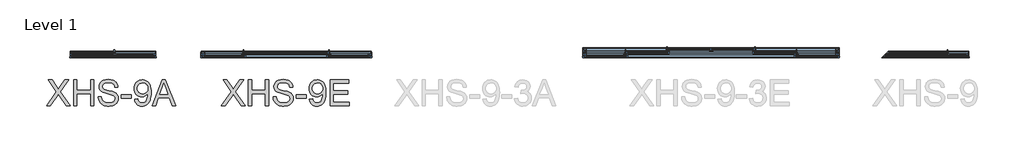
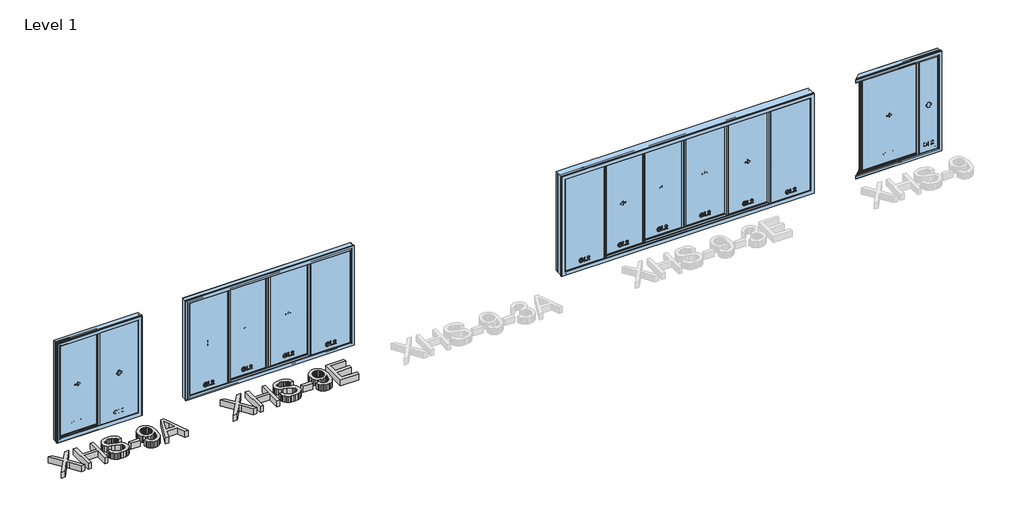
# One storey, part 1 of 2: 4 windows, 2 proxies.
"""IFC4 building model written with IfcOpenShell, lengths in millimetres."""

from ifc_helpers import new_model, si_unit, origin, origin_with_axes, place, context, project, spatial, polyline, outline, extrude, transform, mapped, element, save
from components import window_4e3b3f19, window_bfaaae80, window_bf3bb52b, window_81968e4f, window_7b3e0aa8, window_269518a1

model = new_model("IFC4")

# Units and contexts
model_context = context("Model", 3, world=origin())
ifc_project = project(units=[si_unit("LENGTHUNIT", "METRE", prefix="MILLI")], contexts=[model_context])

# Site, building, storey
site = spatial("IfcSite", under=ifc_project)
building = spatial("IfcBuilding", under=site)
storey = spatial("IfcBuildingStorey", under=building, Name="Level 1", Elevation=0.0)

# Proxies
placement = place(None, origin())
element("IfcBuildingElementProxy", 1, Name="600mm Arial", ObjectType="600mm Arial", at=placement, inside=storey, context=model_context, shape_type="SweptSolid", body=[
    extrude(outline(polyline([(-8424.8652122, -2254.2839532), (-8192.6580968, -1925.838908), (-8387.1940959, -1651.5460923), (-8296.9894307, -1651.5460923), (-8187.3605961, -1806.0565303), (-8161.1306099, -1845.08881), (-8150.4252438, -1866.2420247), (-8107.1623212, -1804.7321551), (-7998.710709, -1651.5460923), (-7906.887363, -1651.5460923), (-8101.5705148, -1926.8689775), (-7869.2162467, -2254.2839532), (-7959.5680647, -2254.2839532), (-8114.5199611, -2036.0563537), (-8146.7464238, -1990.8804447), (-8181.9159426, -2040.4709377), (-8333.0418662, -2254.2839532), (-8424.8652122, -2254.2839532)])), origin_with_axes(), (0.0, 0.0, 1.0), 150.0),
    extrude(outline(polyline([(-7793.8740141, -2254.2839532), (-7793.8740141, -1651.5460923), (-7718.5317815, -1651.5460923), (-7718.5317815, -1896.4083483), (-7398.3272929, -1896.4083483), (-7398.3272929, -1651.5460923), (-7322.9850602, -1651.5460923), (-7322.9850602, -2254.2839532), (-7398.3272929, -2254.2839532), (-7398.3272929, -1971.750581), (-7718.5317815, -1971.750581), (-7718.5317815, -2254.2839532), (-7793.8740141, -2254.2839532)])), origin_with_axes(), (0.0, 0.0, 1.0), 150.0),
    extrude(outline(polyline([(-7219.3894904, -2047.0928136), (-7144.0472578, -2047.0928136), (-7135.4020309, -2088.9026023), (-7119.7670461, -2122.5086226), (-7095.3764698, -2149.1800672), (-7060.4644685, -2170.1861292), (-7017.7901571, -2183.8161571), (-6970.1126505, -2188.3594997), (-6928.1373148, -2184.9198031), (-6891.3859035, -2174.6007131), (-6861.605856, -2158.2667525), (-6840.5446118, -2136.782444), (-6828.0182298, -2112.1159562), (-6823.8427692, -2086.2354579), (-6826.9697662, -2061.0171471), (-6836.350757, -2039.2201389), (-6855.4070444, -2020.623704), (-6887.5599308, -2005.0071133), (-6997.2623417, -1976.2387413), (-7069.2752423, -1957.200848), (-7115.3524622, -1939.0826598), (-7152.8580316, -1913.7355903), (-7179.4375057, -1883.0174437), (-7195.2748256, -1847.5904076), (-7200.5539323, -1808.1166695), (-7198.9214559, -1785.6804663), (-7194.0240268, -1763.9892242), (-7185.8616451, -1743.0429431), (-7174.4343106, -1722.841623), (-7159.8707821, -1704.2084), (-7142.2998183, -1687.9664099), (-7121.7214192, -1674.1156528), (-7098.1355848, -1662.6561286), (-7045.1237893, -1647.2602671), (-6986.4466111, -1642.1283133), (-6922.8766023, -1647.4993904), (-6867.2528446, -1663.6126218), (-6842.9174506, -1675.6147719), (-6821.5619008, -1690.1369136), (-6803.1861952, -1707.1790471), (-6787.7903337, -1726.7411722), (-6775.493878, -1748.2530718), (-6766.4163897, -1771.144529), (-6760.557869, -1795.4155436), (-6757.9183157, -1821.0661157), (-6833.2605483, -1821.0661157), (-6838.3005316, -1797.0250273), (-6847.0929113, -1776.1109359), (-6859.6376873, -1758.3238415), (-6875.9348597, -1743.6637439), (-6896.2879311, -1732.2042198), (-6921.0004041, -1724.0188454), (-6950.0722788, -1719.1076208), (-6983.5035551, -1717.4705459), (-7018.0016892, -1719.0892267), (-7047.4782341, -1723.945269), (-7071.9331897, -1732.0386729), (-7091.3665561, -1743.3694383), (-7106.1738064, -1756.9902692), (-7116.7504138, -1771.9538694), (-7123.0963782, -1788.2602388), (-7125.2116996, -1805.9093775), (-7123.7125805, -1821.0937069), (-7119.2152231, -1834.8616905), (-7111.7196275, -1847.2133285), (-7101.2257936, -1858.1486208), (-7084.707892, -1868.504499), (-7058.6986349, -1878.9707418), (-6978.2060544, -1900.2343211), (-6895.1382999, -1920.4310426), (-6844.8856193, -1938.0525902), (-6801.9353964, -1965.3862224), (-6785.3301228, -1981.4534686), (-6771.9714079, -1999.1210014), (-6761.7029017, -2018.2968504), (-6754.3682544, -2038.8890451), (-6748.5005366, -2084.3224715), (-6750.1881952, -2107.8899118), (-6755.2511712, -2130.7675734), (-6763.6894645, -2152.9554562), (-6775.503075, -2174.4535603), (-6790.4850693, -2194.4295526), (-6808.4285136, -2212.0511002), (-6829.333408, -2227.318203), (-6853.1997524, -2240.230861), (-6879.3331696, -2250.4993672), (-6907.0392824, -2257.8340145), (-6967.1695945, -2263.7017323), (-7005.709832, -2262.1198397), (-7040.9851168, -2257.374162), (-7072.995449, -2249.4646991), (-7101.7408284, -2238.3914511), (-7127.395999, -2224.1360237), (-7150.1357048, -2206.6800231), (-7169.9599458, -2186.023449), (-7186.868722, -2162.1663017), (-7200.4895529, -2135.8811331), (-7210.4499579, -2107.9404956), (-7216.7499371, -2078.3443891), (-7219.3894904, -2047.0928136)])), origin_with_axes(), (0.0, 0.0, 1.0), 150.0),
    extrude(outline(polyline([(-6682.576083, -2075.3461508), (-6682.576083, -2000.0039182), (-6447.1316061, -2000.0039182), (-6447.1316061, -2075.3461508), (-6682.576083, -2075.3461508)])), origin_with_axes(), (0.0, 0.0, 1.0), 150.0),
    extrude(outline(polyline([(-6371.7893735, -2103.599488), (-6296.4471409, -2094.1817089), (-6283.5712711, -2136.9479909), (-6274.0983097, -2153.2129736), (-6262.6019974, -2166.0658508), (-6249.2110927, -2175.8193222), (-6234.0543545, -2182.7860875), (-6198.4433774, -2188.3594997), (-6166.4928261, -2184.7726503), (-6137.4485426, -2174.0121019), (-6113.3154837, -2157.255077), (-6096.0986063, -2135.678798), (-6083.0571896, -2107.3150962), (-6071.4505127, -2070.1958029), (-6063.2835324, -2027.5950678), (-6060.5612056, -1982.7870408), (-6061.002664, -1968.071761), (-6087.1038916, -1999.9303418), (-6121.2617348, -2025.1670467), (-6161.0113844, -2041.6113718), (-6203.8880309, -2047.0928136), (-6239.6783505, -2043.7450874), (-6272.5899935, -2033.7019089), (-6302.6229599, -2016.9632782), (-6329.7772497, -1993.5291951), (-6352.2778322, -1964.6228673), (-6368.3496769, -1931.4675025), (-6377.9927837, -1894.0631006), (-6381.2071526, -1852.4096617), (-6377.8364338, -1809.3674683), (-6367.7242775, -1770.7398588), (-6350.8706836, -1736.5268332), (-6327.2756521, -1706.7283916), (-6298.6038491, -1682.5861357), (-6266.5199406, -1665.3416672), (-6231.0239266, -1654.9949861), (-6192.1158071, -1651.5460923), (-6163.3888218, -1653.514261), (-6135.9218323, -1659.418767), (-6109.7148387, -1669.2596104), (-6084.7678409, -1683.0367911), (-6061.9131719, -1700.4560036), (-6041.9831648, -1721.2229422), (-6024.9778196, -1745.337607), (-6010.8971363, -1772.799998), (-5999.8560779, -1805.1920076), (-5991.9696076, -1844.0955286), (-5987.2377254, -1889.5105609), (-5985.6604314, -1941.4371045), (-5987.2331269, -1995.9710118), (-5991.9512135, -2044.6463983), (-5999.8146911, -2087.463264), (-6010.8235599, -2124.421609), (-6024.9364329, -2156.422744), (-6042.1119235, -2184.3679801), (-6062.3500318, -2208.2573171), (-6085.6507577, -2228.0907552), (-6111.5450516, -2243.6705577), (-6139.5638641, -2254.798988), (-6169.707195, -2261.4760463), (-6201.9750445, -2263.7017323), (-6235.8109911, -2261.0759746), (-6266.3911819, -2253.1987014), (-6293.7156171, -2240.0699127), (-6317.7842966, -2221.6896085), (-6337.9902152, -2198.5544295), (-6353.7263676, -2171.1610164), (-6364.9927537, -2139.5093693), (-6371.7893735, -2103.599488)]), holes=[polyline([(-6061.002664, -1850.6438281), (-6063.035212, -1823.6412897), (-6069.1328561, -1799.5818072), (-6079.2955962, -1778.4653807), (-6093.5234324, -1760.2920101), (-6111.1173888, -1745.6778979), (-6131.3784897, -1735.2392463), (-6154.306735, -1728.9760553), (-6179.9021248, -1726.888325), (-6206.3160521, -1729.1370037), (-6230.2283818, -1735.8830397), (-6251.6391139, -1747.1264332), (-6270.5482484, -1762.8671841), (-6285.9992922, -1782.1855874), (-6297.0357521, -1804.161938), (-6303.657628, -1828.7962362), (-6305.86492, -1856.0884817), (-6303.7771897, -1880.5664299), (-6297.5139987, -1902.6439482), (-6287.0753471, -1922.3210364), (-6272.4612348, -1939.5976946), (-6254.2786672, -1953.6645824), (-6233.1346495, -1963.7123594), (-6209.0291818, -1969.7410256), (-6181.962264, -1971.750581), (-6156.7209606, -1969.7410256), (-6133.8249049, -1963.7123594), (-6113.274097, -1953.6645824), (-6095.0685367, -1939.5976946), (-6080.1647174, -1921.9807455), (-6069.5191322, -1901.2827848), (-6063.131781, -1877.5038123), (-6061.002664, -1850.6438281)])]), origin_with_axes(), (0.0, 0.0, 1.0), 150.0),
    extrude(outline(polyline([(-5961.5273725, -2254.2839532), (-5720.9325477, -1651.5460923), (-5656.7739277, -1651.5460923), (-5416.3262556, -2254.2839532), (-5495.9359194, -2254.2839532), (-5564.8034289, -2065.9283717), (-5813.197352, -2065.9283717), (-5882.0648615, -2254.2839532), (-5961.5273725, -2254.2839532)]), holes=[polyline([(-5785.532626, -1990.5861391), (-5592.3210021, -1990.5861391), (-5646.7675374, -1842.4032714), (-5689.0003905, -1726.888325), (-5726.524354, -1829.4538252), (-5785.532626, -1990.5861391)])]), origin_with_axes(), (0.0, 0.0, 1.0), 150.0),
])
element("IfcBuildingElementProxy", 2, Name="600mm Arial", ObjectType="600mm Arial", at=placement, inside=storey, context=model_context, shape_type="SweptSolid", body=[
    extrude(outline(polyline([(-4344.8652122, -2254.2839532), (-4112.6580968, -1925.838908), (-4307.1940959, -1651.5460923), (-4216.9894307, -1651.5460923), (-4107.3605961, -1806.0565303), (-4081.1306099, -1845.08881), (-4070.4252438, -1866.2420247), (-4027.1623212, -1804.7321551), (-3918.710709, -1651.5460923), (-3826.887363, -1651.5460923), (-4021.5705148, -1926.8689775), (-3789.2162467, -2254.2839532), (-3879.5680647, -2254.2839532), (-4034.5199611, -2036.0563537), (-4066.7464238, -1990.8804447), (-4101.9159426, -2040.4709377), (-4253.0418662, -2254.2839532), (-4344.8652122, -2254.2839532)])), origin_with_axes(), (0.0, 0.0, 1.0), 150.0),
    extrude(outline(polyline([(-3713.8740141, -2254.2839532), (-3713.8740141, -1651.5460923), (-3638.5317815, -1651.5460923), (-3638.5317815, -1896.4083483), (-3318.3272929, -1896.4083483), (-3318.3272929, -1651.5460923), (-3242.9850602, -1651.5460923), (-3242.9850602, -2254.2839532), (-3318.3272929, -2254.2839532), (-3318.3272929, -1971.750581), (-3638.5317815, -1971.750581), (-3638.5317815, -2254.2839532), (-3713.8740141, -2254.2839532)])), origin_with_axes(), (0.0, 0.0, 1.0), 150.0),
    extrude(outline(polyline([(-3139.3894904, -2047.0928136), (-3064.0472578, -2047.0928136), (-3055.4020309, -2088.9026023), (-3039.7670461, -2122.5086226), (-3015.3764698, -2149.1800672), (-2980.4644685, -2170.1861292), (-2937.7901571, -2183.8161571), (-2890.1126505, -2188.3594997), (-2848.1373148, -2184.9198031), (-2811.3859035, -2174.6007131), (-2781.605856, -2158.2667525), (-2760.5446118, -2136.782444), (-2748.0182298, -2112.1159562), (-2743.8427692, -2086.2354579), (-2746.9697662, -2061.0171471), (-2756.350757, -2039.2201389), (-2775.4070444, -2020.623704), (-2807.5599308, -2005.0071133), (-2917.2623417, -1976.2387413), (-2989.2752423, -1957.200848), (-3035.3524622, -1939.0826598), (-3072.8580316, -1913.7355903), (-3099.4375057, -1883.0174437), (-3115.2748256, -1847.5904076), (-3120.5539323, -1808.1166695), (-3118.9214559, -1785.6804663), (-3114.0240268, -1763.9892242), (-3105.8616451, -1743.0429431), (-3094.4343106, -1722.841623), (-3079.8707821, -1704.2084), (-3062.2998183, -1687.9664099), (-3041.7214192, -1674.1156528), (-3018.1355848, -1662.6561286), (-2965.1237893, -1647.2602671), (-2906.4466111, -1642.1283133), (-2842.8766023, -1647.4993904), (-2787.2528446, -1663.6126218), (-2762.9174506, -1675.6147719), (-2741.5619008, -1690.1369136), (-2723.1861952, -1707.1790471), (-2707.7903337, -1726.7411722), (-2695.493878, -1748.2530718), (-2686.4163897, -1771.144529), (-2680.557869, -1795.4155436), (-2677.9183157, -1821.0661157), (-2753.2605483, -1821.0661157), (-2758.3005316, -1797.0250273), (-2767.0929113, -1776.1109359), (-2779.6376873, -1758.3238415), (-2795.9348597, -1743.6637439), (-2816.2879311, -1732.2042198), (-2841.0004041, -1724.0188454), (-2870.0722788, -1719.1076208), (-2903.5035551, -1717.4705459), (-2938.0016892, -1719.0892267), (-2967.4782341, -1723.945269), (-2991.9331897, -1732.0386729), (-3011.3665561, -1743.3694383), (-3026.1738064, -1756.9902692), (-3036.7504138, -1771.9538694), (-3043.0963782, -1788.2602388), (-3045.2116996, -1805.9093775), (-3043.7125805, -1821.0937069), (-3039.2152231, -1834.8616905), (-3031.7196275, -1847.2133285), (-3021.2257936, -1858.1486208), (-3004.707892, -1868.504499), (-2978.6986349, -1878.9707418), (-2898.2060544, -1900.2343211), (-2815.1382999, -1920.4310426), (-2764.8856193, -1938.0525902), (-2721.9353964, -1965.3862224), (-2705.3301228, -1981.4534686), (-2691.9714079, -1999.1210014), (-2681.7029017, -2018.2968504), (-2674.3682544, -2038.8890451), (-2668.5005366, -2084.3224715), (-2670.1881952, -2107.8899118), (-2675.2511712, -2130.7675734), (-2683.6894645, -2152.9554562), (-2695.503075, -2174.4535603), (-2710.4850693, -2194.4295526), (-2728.4285136, -2212.0511002), (-2749.333408, -2227.318203), (-2773.1997524, -2240.230861), (-2799.3331696, -2250.4993672), (-2827.0392824, -2257.8340145), (-2887.1695945, -2263.7017323), (-2925.709832, -2262.1198397), (-2960.9851168, -2257.374162), (-2992.995449, -2249.4646991), (-3021.7408284, -2238.3914511), (-3047.395999, -2224.1360237), (-3070.1357048, -2206.6800231), (-3089.9599458, -2186.023449), (-3106.868722, -2162.1663017), (-3120.4895529, -2135.8811331), (-3130.4499579, -2107.9404956), (-3136.7499371, -2078.3443891), (-3139.3894904, -2047.0928136)])), origin_with_axes(), (0.0, 0.0, 1.0), 150.0),
    extrude(outline(polyline([(-2602.576083, -2075.3461508), (-2602.576083, -2000.0039182), (-2367.1316061, -2000.0039182), (-2367.1316061, -2075.3461508), (-2602.576083, -2075.3461508)])), origin_with_axes(), (0.0, 0.0, 1.0), 150.0),
    extrude(outline(polyline([(-2291.7893735, -2103.599488), (-2216.4471409, -2094.1817089), (-2203.5712711, -2136.9479909), (-2194.0983097, -2153.2129736), (-2182.6019974, -2166.0658508), (-2169.2110927, -2175.8193222), (-2154.0543545, -2182.7860875), (-2118.4433774, -2188.3594997), (-2086.4928261, -2184.7726503), (-2057.4485426, -2174.0121019), (-2033.3154837, -2157.255077), (-2016.0986063, -2135.678798), (-2003.0571896, -2107.3150962), (-1991.4505127, -2070.1958029), (-1983.2835324, -2027.5950678), (-1980.5612056, -1982.7870408), (-1981.002664, -1968.071761), (-2007.1038916, -1999.9303418), (-2041.2617348, -2025.1670467), (-2081.0113844, -2041.6113718), (-2123.8880309, -2047.0928136), (-2159.6783505, -2043.7450874), (-2192.5899935, -2033.7019089), (-2222.6229599, -2016.9632782), (-2249.7772497, -1993.5291951), (-2272.2778322, -1964.6228673), (-2288.3496769, -1931.4675025), (-2297.9927837, -1894.0631006), (-2301.2071526, -1852.4096617), (-2297.8364338, -1809.3674683), (-2287.7242775, -1770.7398588), (-2270.8706836, -1736.5268332), (-2247.2756521, -1706.7283916), (-2218.6038491, -1682.5861357), (-2186.5199406, -1665.3416672), (-2151.0239266, -1654.9949861), (-2112.1158071, -1651.5460923), (-2083.3888218, -1653.514261), (-2055.9218323, -1659.418767), (-2029.7148387, -1669.2596104), (-2004.7678409, -1683.0367911), (-1981.9131719, -1700.4560036), (-1961.9831648, -1721.2229422), (-1944.9778196, -1745.337607), (-1930.8971363, -1772.799998), (-1919.8560779, -1805.1920076), (-1911.9696076, -1844.0955286), (-1907.2377254, -1889.5105609), (-1905.6604314, -1941.4371045), (-1907.2331269, -1995.9710118), (-1911.9512135, -2044.6463983), (-1919.8146911, -2087.463264), (-1930.8235599, -2124.421609), (-1944.9364329, -2156.422744), (-1962.1119235, -2184.3679801), (-1982.3500318, -2208.2573171), (-2005.6507577, -2228.0907552), (-2031.5450516, -2243.6705577), (-2059.5638641, -2254.798988), (-2089.707195, -2261.4760463), (-2121.9750445, -2263.7017323), (-2155.8109911, -2261.0759746), (-2186.3911819, -2253.1987014), (-2213.7156171, -2240.0699127), (-2237.7842966, -2221.6896085), (-2257.9902152, -2198.5544295), (-2273.7263676, -2171.1610164), (-2284.9927537, -2139.5093693), (-2291.7893735, -2103.599488)]), holes=[polyline([(-1981.002664, -1850.6438281), (-1983.035212, -1823.6412897), (-1989.1328561, -1799.5818072), (-1999.2955962, -1778.4653807), (-2013.5234324, -1760.2920101), (-2031.1173888, -1745.6778979), (-2051.3784897, -1735.2392463), (-2074.306735, -1728.9760553), (-2099.9021248, -1726.888325), (-2126.3160521, -1729.1370037), (-2150.2283818, -1735.8830397), (-2171.6391139, -1747.1264332), (-2190.5482484, -1762.8671841), (-2205.9992922, -1782.1855874), (-2217.0357521, -1804.161938), (-2223.657628, -1828.7962362), (-2225.86492, -1856.0884817), (-2223.7771897, -1880.5664299), (-2217.5139987, -1902.6439482), (-2207.0753471, -1922.3210364), (-2192.4612348, -1939.5976946), (-2174.2786672, -1953.6645824), (-2153.1346495, -1963.7123594), (-2129.0291818, -1969.7410256), (-2101.962264, -1971.750581), (-2076.7209606, -1969.7410256), (-2053.8249049, -1963.7123594), (-2033.274097, -1953.6645824), (-2015.0685367, -1939.5976946), (-2000.1647174, -1921.9807455), (-1989.5191322, -1901.2827848), (-1983.131781, -1877.5038123), (-1981.002664, -1850.6438281)])]), origin_with_axes(), (0.0, 0.0, 1.0), 150.0),
    extrude(outline(polyline([(-1811.4826406, -2254.2839532), (-1811.4826406, -1651.5460923), (-1378.2648031, -1651.5460923), (-1378.2648031, -1726.888325), (-1736.140408, -1726.888325), (-1736.140408, -1905.8261274), (-1397.1003613, -1905.8261274), (-1397.1003613, -1981.16836), (-1736.140408, -1981.16836), (-1736.140408, -2178.9417206), (-1368.847024, -2178.9417206), (-1368.847024, -2254.2839532), (-1811.4826406, -2254.2839532)])), origin_with_axes(), (0.0, 0.0, 1.0), 150.0),
])

# Windows
window_shape = window_4e3b3f19(model_context)
element("IfcWindow", 3, ObjectType="XL_XHS-9E_Metaglas : XL_XHS-9E_Metaglas", at=placement, inside=storey, context=model_context, shape_type="MappedRepresentation", body=[
    mapped(window_shape, transform((-2831.2747036, -1086.4558745, 0.0), x_axis=(1.0, 0.0, 0.0), y_axis=(0.0, 1.0, 0.0), z_axis=(0.0, 0.0, 1.0))),
])
window_2_shape = window_bfaaae80(model_context)
window_3_shape = window_bf3bb52b(model_context)
window_4_shape = window_81968e4f(model_context)
element("IfcWindow", 4, ObjectType="XL_XHS-9-3E_Metaglas : XL_XHS-9-3E_Metaglas", at=placement, inside=storey, context=model_context, shape_type="MappedRepresentation", body=[
    mapped(window_2_shape, transform((7077.0671593, -1086.4558745, 0.0), x_axis=(1.0, 0.0, 0.0), y_axis=(0.0, 1.0, 0.0), z_axis=(0.0, 0.0, 1.0))),
    mapped(window_3_shape, transform((7077.0671593, -1086.4558745, 0.0), x_axis=(1.0, 0.0, 0.0), y_axis=(0.0, 1.0, 0.0), z_axis=(0.0, 0.0, 1.0))),
    mapped(window_4_shape, transform((7077.0671593, -1086.4558745, 0.0), x_axis=(1.0, 0.0, 0.0), y_axis=(0.0, 1.0, 0.0), z_axis=(0.0, 0.0, 1.0))),
])
window_5_shape = window_7b3e0aa8(model_context)
element("IfcWindow", 5, ObjectType="XL_XHS-9A_Metaglas : XL_XHS-9A_Metaglas", at=placement, inside=storey, context=model_context, shape_type="MappedRepresentation", body=[
    mapped(window_5_shape, transform((-6875.2909502, -1108.1545465, 0.0), x_axis=(1.0, 0.0, 0.0), y_axis=(0.0, 1.0, 0.0), z_axis=(0.0, 0.0, 1.0))),
])
window_6_shape = window_269518a1(model_context)
element("IfcWindow", 6, ObjectType="XL_XHS-9_Hoek_Links_Metaglas : XL_XHS-9_Hoek_Links_Metaglas", at=placement, inside=storey, context=model_context, shape_type="MappedRepresentation", body=[
    mapped(window_6_shape, transform((12090.4448946, -1108.1545465, 0.0), x_axis=(1.0, 0.0, 0.0), y_axis=(0.0, 1.0, 0.0), z_axis=(0.0, 0.0, 1.0))),
])

save(model, "model.ifc")
